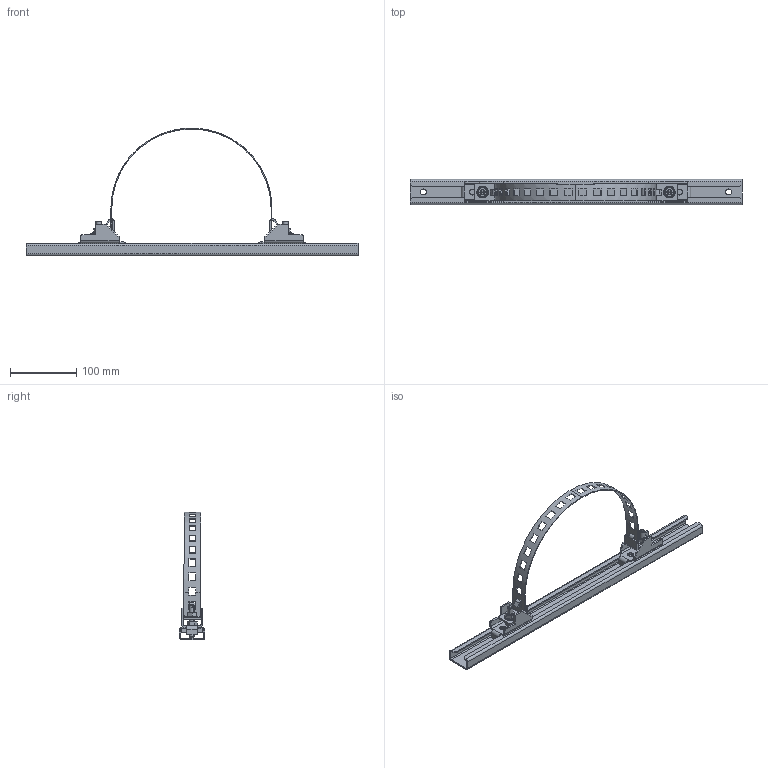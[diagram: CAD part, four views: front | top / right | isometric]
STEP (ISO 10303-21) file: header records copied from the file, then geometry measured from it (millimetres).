
FILE_DESCRIPTION (( 'STEP AP203' ), '1' );
FILE_NAME ('OK 50 EP.STEP', '2021-03-09T14:45:09', ( '' ), ( '' ), 'SwSTEP 2.0', 'SolidWorks 2018', '' );
FILE_SCHEMA (( 'CONFIG_CONTROL_DESIGN' ));
Length unit declared in the file: millimetre
Products named in the file (9): Êðîíøòåéí äëÿ êðåïëåíèÿ ê ñòîëáó; Ãàéêà îö. ñ ôëàíöåì, ðèôëåíàÿ Ì8 DIN 6923_Hexagon Flange Nut DIN 6923 - M8 - C; Ãàéêà îö. Ì8 DIN 934; Òðàâåðñà (ñ èñïîëíåíèÿìè 200-1200)_’à ¢¥àá  500; Ãàéêà õîäîâàÿ Ì8; Âèíò Ì8õ50 ÃÎÑÒ 8878-93_Œ8å50; Óãîëîê âàð. 2; OK 50 EP; 襄痿铍屙蜞 450祆_懏－汊狅-1
Assembly tree (14 placements, depth 2):
  OK 50 EP
    Òðàâåðñà (ñ èñïîëíåíèÿìè 200-1200)_’à ¢¥àá  500
    Ãàéêà õîäîâàÿ Ì8  x2
    Âèíò Ì8õ50 ÃÎÑÒ 8878-93_Œ8å50  x2
    Êðîíøòåéí äëÿ êðåïëåíèÿ ê ñòîëáó  x2
    Ãàéêà îö. ñ ôëàíöåì, ðèôëåíàÿ Ì8 DIN 6923_Hexagon Flange Nut DIN 6923 - M8 - C  x2
    Óãîëîê âàð. 2  x2
    Ãàéêà îö. Ì8 DIN 934  x2
    襄痿铍屙蜞 450祆_懏－汊狅-1
Bounding box: 500 x 38.05 x 192.31 mm (x, y, z)
Volume: 138062.1 mm3; surface area: 140903.1 mm2
Topology: 14 solids, 14 shells, 574 faces, 1398 edges, 846 vertices
Faces by surface type: plane 386, cylinder 96, cone 76, bspline 12, torus 4
Entity records: 12101 total; most frequent: CARTESIAN_POINT 2256, DIRECTION 1818, ORIENTED_EDGE 1796, EDGE_CURVE 898, VECTOR 612, LINE 612, AXIS2_PLACEMENT_3D 603, VERTEX_POINT 549
